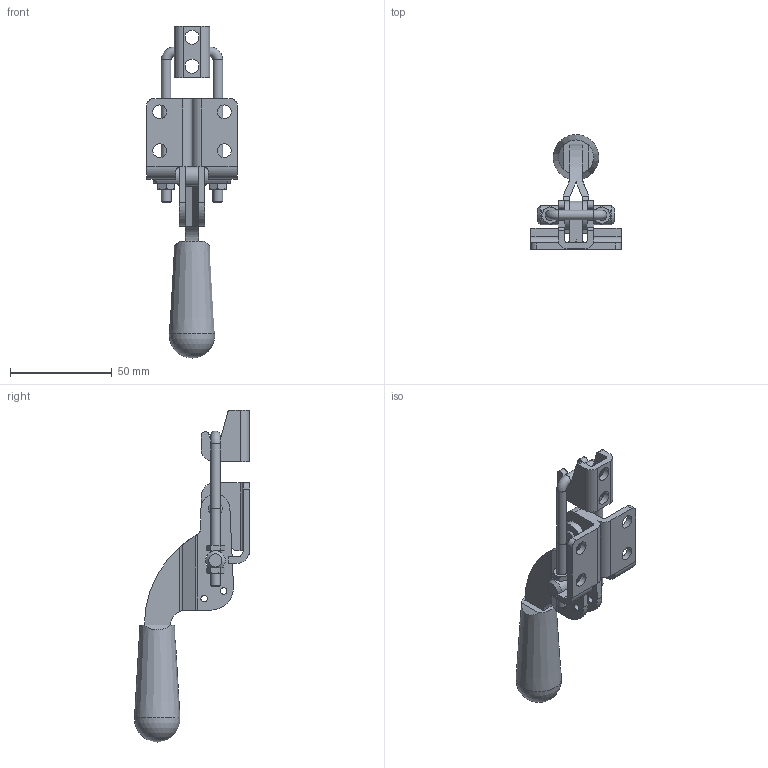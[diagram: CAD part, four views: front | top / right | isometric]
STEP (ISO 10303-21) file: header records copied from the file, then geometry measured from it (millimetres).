
FILE_DESCRIPTION( ( 'STEP AP214' ), ' ' );
FILE_NAME( 'p:/temp/worker_811/5064_6700/app_42_02016122214220938254312192d056f_000000_00_00_000000/format_4/331-SS.stp', '2016-12-22T13:22:16', ( '' ), ( '' ), ' ', 'PARTsolutions', ' ' );
FILE_SCHEMA( ( 'AUTOMOTIVE_DESIGN { 1 0 10303 214 1 1 1 1 }' ) );
Length unit declared in the file: millimetre
Products named in the file (9): 331-SS; _331-SS_dummy-331-SS; _331903; _331908; _331907; _331911-M; _331906-331-rss; _331905; _207301
Assembly tree (11 placements, depth 2):
  331-SS
    _331-SS_dummy-331-SS
    _331903
    _331908
    _331907
    _331911-M  x4
    _331906-331-rss
    _331905
    _207301
Bounding box: 44.35 x 56.52 x 163.05 mm (x, y, z)
Volume: 44198 mm3; surface area: 27690.5 mm2
Topology: 10 solids, 10 shells, 237 faces, 576 edges, 364 vertices
Faces by surface type: plane 101, cylinder 70, cone 61, torus 4, sphere 1
Full cylindrical faces by diameter (mm): 3.2 x4, 4.134 x4, 4.763 x3, 4.826 x3, 5.588 x2, 6.731 x4, 6.858 x2, 7.112 x1, 9.525 x1, 9.652 x2
Entity records: 6715 total; most frequent: CARTESIAN_POINT 1209, DIRECTION 855, ORIENTED_EDGE 768, EDGE_CURVE 384, AXIS2_PLACEMENT_3D 335, VERTEX_POINT 270, EDGE_LOOP 241, FACE_OUTER_BOUND 195
